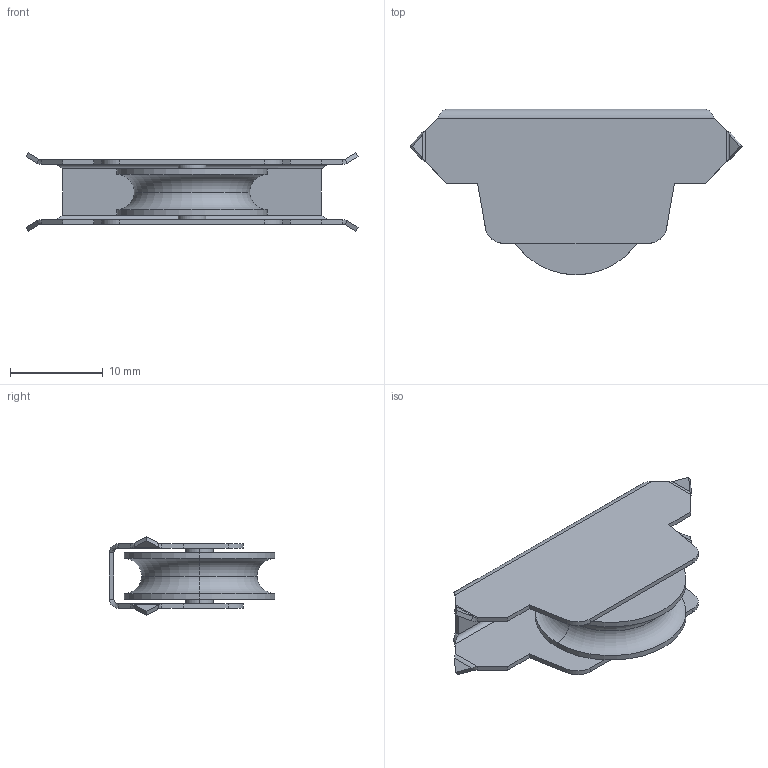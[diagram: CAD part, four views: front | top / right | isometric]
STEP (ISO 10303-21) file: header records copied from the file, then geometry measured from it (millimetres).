
FILE_DESCRIPTION (( 'STEP AP203' ), '1' );
FILE_NAME ('FDS06.STEP', '2024-02-19T13:18:44', ( '' ), ( '' ), 'SwSTEP 2.0', 'SolidWorks 2022', '' );
FILE_SCHEMA (( 'CONFIG_CONTROL_DESIGN' ));
Length unit declared in the file: millimetre
Products named in the file (1): FDS06
Bounding box: 35.89 x 17.9 x 8.45 mm (x, y, z)
Volume: 1249.8 mm3; surface area: 2630.3 mm2
Topology: 1 solids, 1 shells, 84 faces, 186 edges, 106 vertices
Faces by surface type: plane 44, cylinder 24, bspline 12, torus 4
Entity records: 3140 total; most frequent: CARTESIAN_POINT 1292, ORIENTED_EDGE 372, DIRECTION 338, EDGE_CURVE 186, VECTOR 132, LINE 132, VERTEX_POINT 106, AXIS2_PLACEMENT_3D 103
